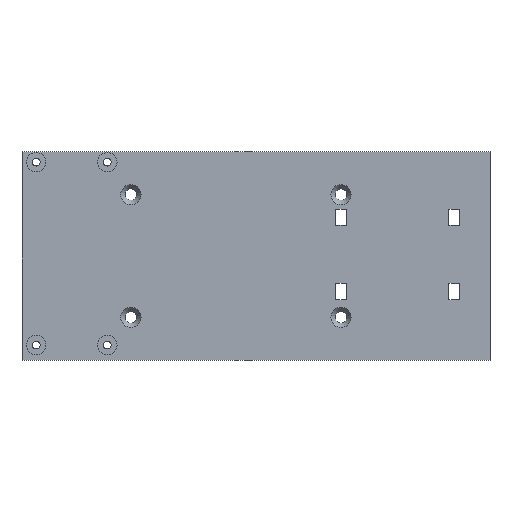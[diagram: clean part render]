
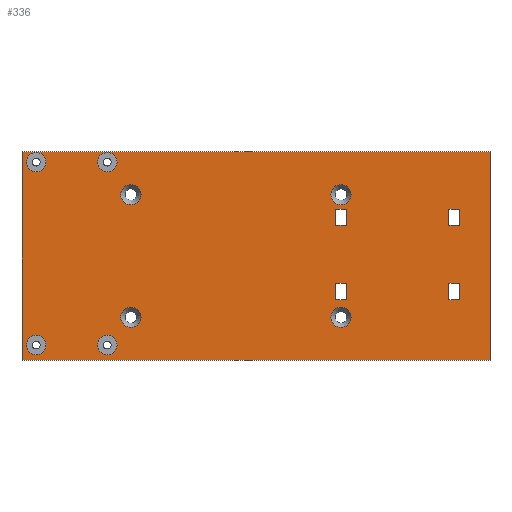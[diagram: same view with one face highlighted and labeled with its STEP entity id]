
A CAD part, top view. The second image highlights one B-rep face of the part: STEP entity #336.
In plain terms, the highlighted planar face has unit normal (0, 0, 1).
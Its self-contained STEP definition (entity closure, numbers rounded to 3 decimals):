
#32 = VERTEX_POINT('',#33);
#33 = CARTESIAN_POINT('',(0.,64.6,3.));
#39 = EDGE_CURVE('',#32,#40,#42,.T.);
#40 = VERTEX_POINT('',#41);
#41 = CARTESIAN_POINT('',(0.,0.,3.));
#42 = LINE('',#43,#44);
#43 = CARTESIAN_POINT('',(0.,64.6,3.));
#44 = VECTOR('',#45,1.);
#45 = DIRECTION('',(0.,-1.,0.));
#319 = VERTEX_POINT('',#320);
#320 = CARTESIAN_POINT('',(144.8,0.,3.));
#326 = EDGE_CURVE('',#40,#319,#327,.T.);
#327 = LINE('',#328,#329);
#328 = CARTESIAN_POINT('',(0.,0.,3.));
#329 = VECTOR('',#330,1.);
#330 = DIRECTION('',(1.,0.,0.));
#336 = ADVANCED_FACE('',(#337,#355,#366,#377,#388,#399,#410,#421,#432,
    #466,#500,#534,#545),#579,.T.);
#337 = FACE_BOUND('',#338,.T.);
#338 = EDGE_LOOP('',(#339,#347,#348,#349));
#339 = ORIENTED_EDGE('',*,*,#340,.F.);
#340 = EDGE_CURVE('',#32,#341,#343,.T.);
#341 = VERTEX_POINT('',#342);
#342 = CARTESIAN_POINT('',(144.8,64.6,3.));
#343 = LINE('',#344,#345);
#344 = CARTESIAN_POINT('',(0.,64.6,3.));
#345 = VECTOR('',#346,1.);
#346 = DIRECTION('',(1.,0.,0.));
#347 = ORIENTED_EDGE('',*,*,#39,.T.);
#348 = ORIENTED_EDGE('',*,*,#326,.T.);
#349 = ORIENTED_EDGE('',*,*,#350,.F.);
#350 = EDGE_CURVE('',#341,#319,#351,.T.);
#351 = LINE('',#352,#353);
#352 = CARTESIAN_POINT('',(144.8,64.6,3.));
#353 = VECTOR('',#354,1.);
#354 = DIRECTION('',(0.,-1.,0.));
#355 = FACE_BOUND('',#356,.T.);
#356 = EDGE_LOOP('',(#357));
#357 = ORIENTED_EDGE('',*,*,#358,.F.);
#358 = EDGE_CURVE('',#359,#359,#361,.T.);
#359 = VERTEX_POINT('',#360);
#360 = CARTESIAN_POINT('',(4.4,58.335,3.));
#361 = CIRCLE('',#362,3.);
#362 = AXIS2_PLACEMENT_3D('',#363,#364,#365);
#363 = CARTESIAN_POINT('',(4.4,61.335,3.));
#364 = DIRECTION('',(0.,0.,1.));
#365 = DIRECTION('',(0.,-1.,0.));
#366 = FACE_BOUND('',#367,.T.);
#367 = EDGE_LOOP('',(#368));
#368 = ORIENTED_EDGE('',*,*,#369,.F.);
#369 = EDGE_CURVE('',#370,#370,#372,.T.);
#370 = VERTEX_POINT('',#371);
#371 = CARTESIAN_POINT('',(26.4,58.335,3.));
#372 = CIRCLE('',#373,3.);
#373 = AXIS2_PLACEMENT_3D('',#374,#375,#376);
#374 = CARTESIAN_POINT('',(26.4,61.335,3.));
#375 = DIRECTION('',(0.,0.,1.));
#376 = DIRECTION('',(0.,-1.,0.));
#377 = FACE_BOUND('',#378,.T.);
#378 = EDGE_LOOP('',(#379));
#379 = ORIENTED_EDGE('',*,*,#380,.T.);
#380 = EDGE_CURVE('',#381,#381,#383,.T.);
#381 = VERTEX_POINT('',#382);
#382 = CARTESIAN_POINT('',(33.7,54.426,3.));
#383 = CIRCLE('',#384,3.126);
#384 = AXIS2_PLACEMENT_3D('',#385,#386,#387);
#385 = CARTESIAN_POINT('',(33.7,51.3,3.));
#386 = DIRECTION('',(0.,0.,-1.));
#387 = DIRECTION('',(0.,1.,0.));
#388 = FACE_BOUND('',#389,.T.);
#389 = EDGE_LOOP('',(#390));
#390 = ORIENTED_EDGE('',*,*,#391,.F.);
#391 = EDGE_CURVE('',#392,#392,#394,.T.);
#392 = VERTEX_POINT('',#393);
#393 = CARTESIAN_POINT('',(4.4,1.735,3.));
#394 = CIRCLE('',#395,3.);
#395 = AXIS2_PLACEMENT_3D('',#396,#397,#398);
#396 = CARTESIAN_POINT('',(4.4,4.735,3.));
#397 = DIRECTION('',(0.,0.,1.));
#398 = DIRECTION('',(0.,-1.,0.));
#399 = FACE_BOUND('',#400,.T.);
#400 = EDGE_LOOP('',(#401));
#401 = ORIENTED_EDGE('',*,*,#402,.T.);
#402 = EDGE_CURVE('',#403,#403,#405,.T.);
#403 = VERTEX_POINT('',#404);
#404 = CARTESIAN_POINT('',(33.7,16.426,3.));
#405 = CIRCLE('',#406,3.126);
#406 = AXIS2_PLACEMENT_3D('',#407,#408,#409);
#407 = CARTESIAN_POINT('',(33.7,13.3,3.));
#408 = DIRECTION('',(0.,0.,-1.));
#409 = DIRECTION('',(0.,1.,0.));
#410 = FACE_BOUND('',#411,.T.);
#411 = EDGE_LOOP('',(#412));
#412 = ORIENTED_EDGE('',*,*,#413,.F.);
#413 = EDGE_CURVE('',#414,#414,#416,.T.);
#414 = VERTEX_POINT('',#415);
#415 = CARTESIAN_POINT('',(26.4,1.735,3.));
#416 = CIRCLE('',#417,3.);
#417 = AXIS2_PLACEMENT_3D('',#418,#419,#420);
#418 = CARTESIAN_POINT('',(26.4,4.735,3.));
#419 = DIRECTION('',(0.,0.,1.));
#420 = DIRECTION('',(0.,-1.,0.));
#421 = FACE_BOUND('',#422,.T.);
#422 = EDGE_LOOP('',(#423));
#423 = ORIENTED_EDGE('',*,*,#424,.T.);
#424 = EDGE_CURVE('',#425,#425,#427,.T.);
#425 = VERTEX_POINT('',#426);
#426 = CARTESIAN_POINT('',(98.7,54.426,3.));
#427 = CIRCLE('',#428,3.126);
#428 = AXIS2_PLACEMENT_3D('',#429,#430,#431);
#429 = CARTESIAN_POINT('',(98.7,51.3,3.));
#430 = DIRECTION('',(0.,0.,-1.));
#431 = DIRECTION('',(0.,1.,0.));
#432 = FACE_BOUND('',#433,.T.);
#433 = EDGE_LOOP('',(#434,#444,#452,#460));
#434 = ORIENTED_EDGE('',*,*,#435,.F.);
#435 = EDGE_CURVE('',#436,#438,#440,.T.);
#436 = VERTEX_POINT('',#437);
#437 = CARTESIAN_POINT('',(97.1,41.8,3.));
#438 = VERTEX_POINT('',#439);
#439 = CARTESIAN_POINT('',(100.3,41.8,3.));
#440 = LINE('',#441,#442);
#441 = CARTESIAN_POINT('',(48.55,41.8,3.));
#442 = VECTOR('',#443,1.);
#443 = DIRECTION('',(1.,0.,0.));
#444 = ORIENTED_EDGE('',*,*,#445,.T.);
#445 = EDGE_CURVE('',#436,#446,#448,.T.);
#446 = VERTEX_POINT('',#447);
#447 = CARTESIAN_POINT('',(97.1,46.8,3.));
#448 = LINE('',#449,#450);
#449 = CARTESIAN_POINT('',(97.1,55.7,3.));
#450 = VECTOR('',#451,1.);
#451 = DIRECTION('',(0.,1.,0.));
#452 = ORIENTED_EDGE('',*,*,#453,.T.);
#453 = EDGE_CURVE('',#446,#454,#456,.T.);
#454 = VERTEX_POINT('',#455);
#455 = CARTESIAN_POINT('',(100.3,46.8,3.));
#456 = LINE('',#457,#458);
#457 = CARTESIAN_POINT('',(48.55,46.8,3.));
#458 = VECTOR('',#459,1.);
#459 = DIRECTION('',(1.,0.,0.));
#460 = ORIENTED_EDGE('',*,*,#461,.F.);
#461 = EDGE_CURVE('',#438,#454,#462,.T.);
#462 = LINE('',#463,#464);
#463 = CARTESIAN_POINT('',(100.3,55.7,3.));
#464 = VECTOR('',#465,1.);
#465 = DIRECTION('',(0.,1.,0.));
#466 = FACE_BOUND('',#467,.T.);
#467 = EDGE_LOOP('',(#468,#478,#486,#494));
#468 = ORIENTED_EDGE('',*,*,#469,.F.);
#469 = EDGE_CURVE('',#470,#472,#474,.T.);
#470 = VERTEX_POINT('',#471);
#471 = CARTESIAN_POINT('',(132.1,41.8,3.));
#472 = VERTEX_POINT('',#473);
#473 = CARTESIAN_POINT('',(135.3,41.8,3.));
#474 = LINE('',#475,#476);
#475 = CARTESIAN_POINT('',(66.05,41.8,3.));
#476 = VECTOR('',#477,1.);
#477 = DIRECTION('',(1.,0.,0.));
#478 = ORIENTED_EDGE('',*,*,#479,.T.);
#479 = EDGE_CURVE('',#470,#480,#482,.T.);
#480 = VERTEX_POINT('',#481);
#481 = CARTESIAN_POINT('',(132.1,46.8,3.));
#482 = LINE('',#483,#484);
#483 = CARTESIAN_POINT('',(132.1,55.7,3.));
#484 = VECTOR('',#485,1.);
#485 = DIRECTION('',(0.,1.,0.));
#486 = ORIENTED_EDGE('',*,*,#487,.T.);
#487 = EDGE_CURVE('',#480,#488,#490,.T.);
#488 = VERTEX_POINT('',#489);
#489 = CARTESIAN_POINT('',(135.3,46.8,3.));
#490 = LINE('',#491,#492);
#491 = CARTESIAN_POINT('',(66.05,46.8,3.));
#492 = VECTOR('',#493,1.);
#493 = DIRECTION('',(1.,0.,0.));
#494 = ORIENTED_EDGE('',*,*,#495,.F.);
#495 = EDGE_CURVE('',#472,#488,#496,.T.);
#496 = LINE('',#497,#498);
#497 = CARTESIAN_POINT('',(135.3,55.7,3.));
#498 = VECTOR('',#499,1.);
#499 = DIRECTION('',(0.,1.,0.));
#500 = FACE_BOUND('',#501,.T.);
#501 = EDGE_LOOP('',(#502,#512,#520,#528));
#502 = ORIENTED_EDGE('',*,*,#503,.F.);
#503 = EDGE_CURVE('',#504,#506,#508,.T.);
#504 = VERTEX_POINT('',#505);
#505 = CARTESIAN_POINT('',(97.1,18.8,3.));
#506 = VERTEX_POINT('',#507);
#507 = CARTESIAN_POINT('',(100.3,18.8,3.));
#508 = LINE('',#509,#510);
#509 = CARTESIAN_POINT('',(48.55,18.8,3.));
#510 = VECTOR('',#511,1.);
#511 = DIRECTION('',(1.,0.,0.));
#512 = ORIENTED_EDGE('',*,*,#513,.T.);
#513 = EDGE_CURVE('',#504,#514,#516,.T.);
#514 = VERTEX_POINT('',#515);
#515 = CARTESIAN_POINT('',(97.1,23.8,3.));
#516 = LINE('',#517,#518);
#517 = CARTESIAN_POINT('',(97.1,44.2,3.));
#518 = VECTOR('',#519,1.);
#519 = DIRECTION('',(0.,1.,0.));
#520 = ORIENTED_EDGE('',*,*,#521,.T.);
#521 = EDGE_CURVE('',#514,#522,#524,.T.);
#522 = VERTEX_POINT('',#523);
#523 = CARTESIAN_POINT('',(100.3,23.8,3.));
#524 = LINE('',#525,#526);
#525 = CARTESIAN_POINT('',(48.55,23.8,3.));
#526 = VECTOR('',#527,1.);
#527 = DIRECTION('',(1.,0.,0.));
#528 = ORIENTED_EDGE('',*,*,#529,.F.);
#529 = EDGE_CURVE('',#506,#522,#530,.T.);
#530 = LINE('',#531,#532);
#531 = CARTESIAN_POINT('',(100.3,44.2,3.));
#532 = VECTOR('',#533,1.);
#533 = DIRECTION('',(0.,1.,0.));
#534 = FACE_BOUND('',#535,.T.);
#535 = EDGE_LOOP('',(#536));
#536 = ORIENTED_EDGE('',*,*,#537,.T.);
#537 = EDGE_CURVE('',#538,#538,#540,.T.);
#538 = VERTEX_POINT('',#539);
#539 = CARTESIAN_POINT('',(98.7,16.426,3.));
#540 = CIRCLE('',#541,3.126);
#541 = AXIS2_PLACEMENT_3D('',#542,#543,#544);
#542 = CARTESIAN_POINT('',(98.7,13.3,3.));
#543 = DIRECTION('',(0.,0.,-1.));
#544 = DIRECTION('',(0.,1.,0.));
#545 = FACE_BOUND('',#546,.T.);
#546 = EDGE_LOOP('',(#547,#557,#565,#573));
#547 = ORIENTED_EDGE('',*,*,#548,.F.);
#548 = EDGE_CURVE('',#549,#551,#553,.T.);
#549 = VERTEX_POINT('',#550);
#550 = CARTESIAN_POINT('',(132.1,18.8,3.));
#551 = VERTEX_POINT('',#552);
#552 = CARTESIAN_POINT('',(135.3,18.8,3.));
#553 = LINE('',#554,#555);
#554 = CARTESIAN_POINT('',(66.05,18.8,3.));
#555 = VECTOR('',#556,1.);
#556 = DIRECTION('',(1.,0.,0.));
#557 = ORIENTED_EDGE('',*,*,#558,.T.);
#558 = EDGE_CURVE('',#549,#559,#561,.T.);
#559 = VERTEX_POINT('',#560);
#560 = CARTESIAN_POINT('',(132.1,23.8,3.));
#561 = LINE('',#562,#563);
#562 = CARTESIAN_POINT('',(132.1,44.2,3.));
#563 = VECTOR('',#564,1.);
#564 = DIRECTION('',(0.,1.,0.));
#565 = ORIENTED_EDGE('',*,*,#566,.T.);
#566 = EDGE_CURVE('',#559,#567,#569,.T.);
#567 = VERTEX_POINT('',#568);
#568 = CARTESIAN_POINT('',(135.3,23.8,3.));
#569 = LINE('',#570,#571);
#570 = CARTESIAN_POINT('',(66.05,23.8,3.));
#571 = VECTOR('',#572,1.);
#572 = DIRECTION('',(1.,0.,0.));
#573 = ORIENTED_EDGE('',*,*,#574,.F.);
#574 = EDGE_CURVE('',#551,#567,#575,.T.);
#575 = LINE('',#576,#577);
#576 = CARTESIAN_POINT('',(135.3,44.2,3.));
#577 = VECTOR('',#578,1.);
#578 = DIRECTION('',(0.,1.,0.));
#579 = PLANE('',#580);
#580 = AXIS2_PLACEMENT_3D('',#581,#582,#583);
#581 = CARTESIAN_POINT('',(0.,64.6,3.));
#582 = DIRECTION('',(0.,0.,1.));
#583 = DIRECTION('',(0.,-1.,0.));
